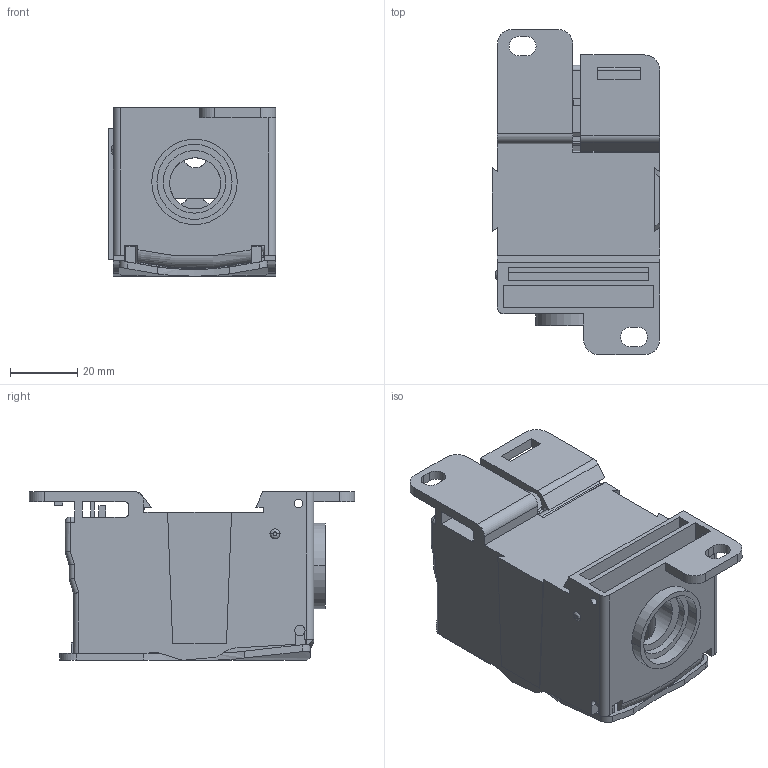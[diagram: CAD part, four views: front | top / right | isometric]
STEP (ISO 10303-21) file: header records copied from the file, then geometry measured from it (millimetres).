
FILE_DESCRIPTION(/* description */ (''),/* implementation_level */ '2;1');
FILE_NAME(/* name */ '3.stp',/* time_stamp */ '2019-06-12T23:43:58+08:00',/* author */ (''),/* organization */ (''),/* preprocessor_version */ 'ST-DEVELOPER v16.7',/* originating_system */ 'SIEMENS PLM Software NX 12.0',/* authorisation */ '');
FILE_SCHEMA (('AUTOMOTIVE_DESIGN { 1 0 10303 214 3 1 1 1 }'));
Length unit declared in the file: millimetre
Products named in the file (1): Admi32AC5160z41h
Bounding box: 49.7 x 96.6 x 50.02 mm (x, y, z)
Volume: 87747.7 mm3; surface area: 62651.8 mm2
Topology: 3 solids, 3 shells, 545 faces, 1610 edges, 1062 vertices
Faces by surface type: plane 297, cylinder 201, cone 34, bspline 10, sphere 2, torus 1
Entity records: 23344 total; most frequent: CARTESIAN_POINT 4374, ORIENTED_EDGE 3216, DIRECTION 3151, EDGE_CURVE 1608, AXIS2_PLACEMENT_3D 1080, VERTEX_POINT 1062, LINE 991, VECTOR 991
